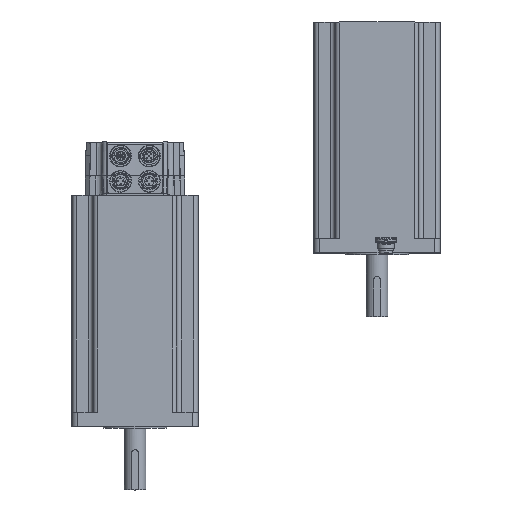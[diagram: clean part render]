
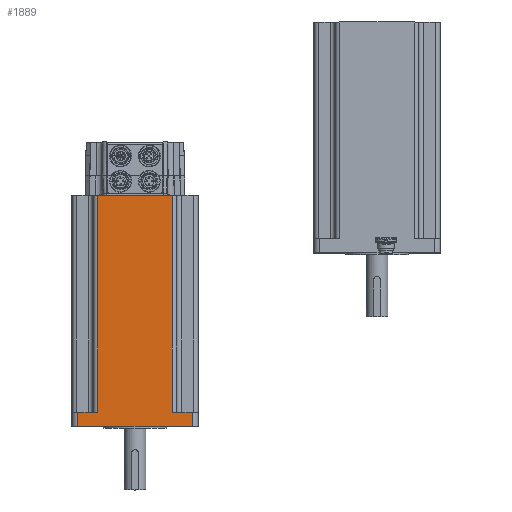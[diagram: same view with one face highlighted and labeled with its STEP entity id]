
A CAD part, top view. The second image highlights one B-rep face of the part: STEP entity #1889.
In plain terms, the highlighted planar face has unit normal (0, 0, 1).
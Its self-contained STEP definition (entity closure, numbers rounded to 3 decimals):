
#1889 = ADVANCED_FACE( '', ( #4383 ), #4384, .T. );
#4383 = FACE_OUTER_BOUND( '', #7888, .T. );
#4384 = PLANE( '', #7889 );
#7888 = EDGE_LOOP( '', ( #13273, #13274, #13275, #13276, #13277, #13278, #13279, #13280 ) );
#7889 = AXIS2_PLACEMENT_3D( '', #13281, #13282, #13283 );
#13273 = ORIENTED_EDGE( '', *, *, #20307, .T. );
#13274 = ORIENTED_EDGE( '', *, *, #20308, .T. );
#13275 = ORIENTED_EDGE( '', *, *, #20309, .T. );
#13276 = ORIENTED_EDGE( '', *, *, #20310, .T. );
#13277 = ORIENTED_EDGE( '', *, *, #20311, .T. );
#13278 = ORIENTED_EDGE( '', *, *, #20312, .T. );
#13279 = ORIENTED_EDGE( '', *, *, #20313, .F. );
#13280 = ORIENTED_EDGE( '', *, *, #20314, .T. );
#13281 = CARTESIAN_POINT( '', ( 312.563, 12.2, 229.19 ) );
#13282 = DIRECTION( '', ( 0., 0., 1. ) );
#13283 = DIRECTION( '', ( 1., 0., 0. ) );
#20307 = EDGE_CURVE( '', #24699, #24700, #24701, .T. );
#20308 = EDGE_CURVE( '', #24700, #24702, #24703, .T. );
#20309 = EDGE_CURVE( '', #24702, #24704, #24705, .T. );
#20310 = EDGE_CURVE( '', #24704, #24706, #24707, .T. );
#20311 = EDGE_CURVE( '', #24706, #24708, #24709, .T. );
#20312 = EDGE_CURVE( '', #24708, #24710, #24711, .T. );
#20313 = EDGE_CURVE( '', #24712, #24710, #24713, .T. );
#20314 = EDGE_CURVE( '', #24712, #24699, #24714, .T. );
#24699 = VERTEX_POINT( '', #30592 );
#24700 = VERTEX_POINT( '', #30593 );
#24701 = LINE( '', #30594, #30595 );
#24702 = VERTEX_POINT( '', #30596 );
#24703 = LINE( '', #30597, #30598 );
#24704 = VERTEX_POINT( '', #30599 );
#24705 = LINE( '', #30600, #30601 );
#24706 = VERTEX_POINT( '', #30602 );
#24707 = LINE( '', #30603, #30604 );
#24708 = VERTEX_POINT( '', #30605 );
#24709 = LINE( '', #30606, #30607 );
#24710 = VERTEX_POINT( '', #30608 );
#24711 = LINE( '', #30609, #30610 );
#24712 = VERTEX_POINT( '', #30611 );
#24713 = LINE( '', #30612, #30613 );
#24714 = LINE( '', #30614, #30615 );
#30592 = CARTESIAN_POINT( '', ( 307.563, 12.2, 229.19 ) );
#30593 = CARTESIAN_POINT( '', ( 290.163, 12.2, 229.19 ) );
#30594 = CARTESIAN_POINT( '', ( 312.563, 12.2, 229.19 ) );
#30595 = VECTOR( '', #35795, 1000. );
#30596 = CARTESIAN_POINT( '', ( 290.163, 201., 229.19 ) );
#30597 = CARTESIAN_POINT( '', ( 290.163, 12.2, 229.19 ) );
#30598 = VECTOR( '', #35796, 1000. );
#30599 = CARTESIAN_POINT( '', ( 225.103, 201., 229.19 ) );
#30600 = CARTESIAN_POINT( '', ( 294.163, 201., 229.19 ) );
#30601 = VECTOR( '', #35797, 1000. );
#30602 = CARTESIAN_POINT( '', ( 225.103, 12.2, 229.19 ) );
#30603 = CARTESIAN_POINT( '', ( 225.103, 12.2, 229.19 ) );
#30604 = VECTOR( '', #35798, 1000. );
#30605 = CARTESIAN_POINT( '', ( 207.703, 12.2, 229.19 ) );
#30606 = CARTESIAN_POINT( '', ( 312.563, 12.2, 229.19 ) );
#30607 = VECTOR( '', #35799, 1000. );
#30608 = CARTESIAN_POINT( '', ( 207.703, 0., 229.19 ) );
#30609 = CARTESIAN_POINT( '', ( 207.703, 12.2, 229.19 ) );
#30610 = VECTOR( '', #35800, 1000. );
#30611 = CARTESIAN_POINT( '', ( 307.563, 0., 229.19 ) );
#30612 = CARTESIAN_POINT( '', ( 312.563, 0., 229.19 ) );
#30613 = VECTOR( '', #35801, 1000. );
#30614 = CARTESIAN_POINT( '', ( 307.563, 12.2, 229.19 ) );
#30615 = VECTOR( '', #35802, 1000. );
#35795 = DIRECTION( '', ( -1., 0., 0. ) );
#35796 = DIRECTION( '', ( 0., 1., 0. ) );
#35797 = DIRECTION( '', ( -1., 0., 0. ) );
#35798 = DIRECTION( '', ( 0., -1., 0. ) );
#35799 = DIRECTION( '', ( -1., 0., 0. ) );
#35800 = DIRECTION( '', ( 0., -1., 0. ) );
#35801 = DIRECTION( '', ( -1., 0., 0. ) );
#35802 = DIRECTION( '', ( 0., 1., 0. ) );
